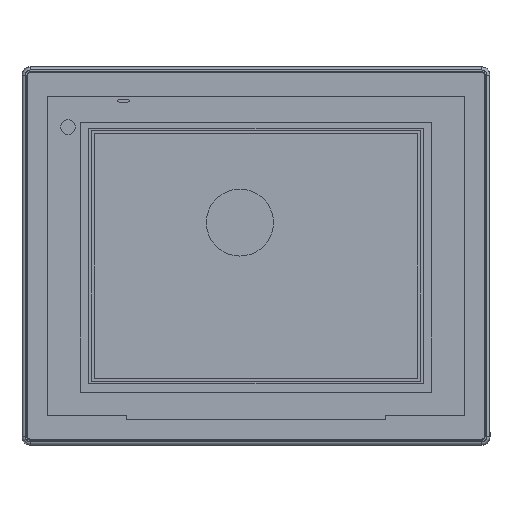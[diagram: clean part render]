
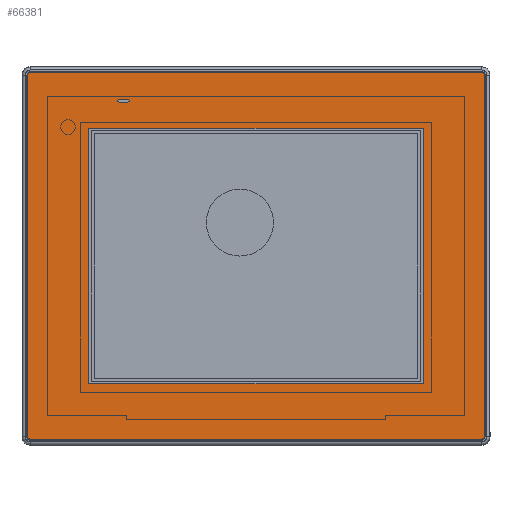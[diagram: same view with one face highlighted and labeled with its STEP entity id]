
A CAD part, top view. The second image highlights one B-rep face of the part: STEP entity #66381.
In plain terms, the highlighted planar face has unit normal (0, 0, 1).
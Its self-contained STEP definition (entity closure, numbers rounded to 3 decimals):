
#475 = VERTEX_POINT ( 'NONE', #16143 ) ;
#1720 = CARTESIAN_POINT ( 'NONE',  ( 35.25, 125.35, 59.45 ) ) ;
#1728 = DIRECTION ( 'NONE',  ( -1., 0., 0. ) ) ;
#5319 = VERTEX_POINT ( 'NONE', #62696 ) ;
#5852 = VERTEX_POINT ( 'NONE', #53011 ) ;
#6513 = CARTESIAN_POINT ( 'NONE',  ( 167.4, 134., 59.45 ) ) ;
#7281 = CARTESIAN_POINT ( 'NONE',  ( 145.4, 68.5, 59.45 ) ) ;
#8095 = AXIS2_PLACEMENT_3D ( 'NONE', #55994, #48306, #63365 ) ;
#8406 = CARTESIAN_POINT ( 'NONE',  ( 35.25, 125.35, 59.45 ) ) ;
#9263 = VECTOR ( 'NONE', #33029, 1000. ) ;
#9333 = CIRCLE ( 'NONE', #30495, 0.9 ) ;
#9541 = LINE ( 'NONE', #46354, #58987 ) ;
#9969 = FACE_BOUND ( 'NONE', #60865, .T. ) ;
#11398 = ORIENTED_EDGE ( 'NONE', *, *, #19121, .F. ) ;
#11496 = EDGE_CURVE ( 'NONE', #28365, #41500, #9541, .T. ) ;
#11965 = CIRCLE ( 'NONE', #88518, 0.9 ) ;
#11984 = VERTEX_POINT ( 'NONE', #81176 ) ;
#12794 = VECTOR ( 'NONE', #81607, 1000. ) ;
#12865 = CARTESIAN_POINT ( 'NONE',  ( 34.7, 124.8, 59.45 ) ) ;
#13031 = EDGE_CURVE ( 'NONE', #77338, #75606, #81578, .T. ) ;
#14321 = VERTEX_POINT ( 'NONE', #44007 ) ;
#14625 = VECTOR ( 'NONE', #27465, 1000. ) ;
#16143 = CARTESIAN_POINT ( 'NONE',  ( 145.4, 22.2, 59.45 ) ) ;
#16356 = CARTESIAN_POINT ( 'NONE',  ( 84.75, 134.9, 59.45 ) ) ;
#16699 = CARTESIAN_POINT ( 'NONE',  ( 35.25, 124.25, 59.45 ) ) ;
#16757 = ORIENTED_EDGE ( 'NONE', *, *, #43965, .F. ) ;
#16799 = VERTEX_POINT ( 'NONE', #25194 ) ;
#17066 = CIRCLE ( 'NONE', #88803, 0.55 ) ;
#17124 = VERTEX_POINT ( 'NONE', #74546 ) ;
#17544 = EDGE_CURVE ( 'NONE', #41066, #5319, #34258, .T. ) ;
#17686 = VECTOR ( 'NONE', #43431, 1000. ) ;
#18149 = DIRECTION ( 'NONE',  ( 0., -1., 0. ) ) ;
#18494 = CARTESIAN_POINT ( 'NONE',  ( 145.4, 114.8, 59.45 ) ) ;
#18739 = AXIS2_PLACEMENT_3D ( 'NONE', #84615, #26537, #63157 ) ;
#19108 = CARTESIAN_POINT ( 'NONE',  ( 24.1, 68.5, 59.45 ) ) ;
#19121 = EDGE_CURVE ( 'NONE', #11984, #68462, #33972, .T. ) ;
#19984 = EDGE_CURVE ( 'NONE', #47670, #11984, #44226, .T. ) ;
#21652 = DIRECTION ( 'NONE',  ( 0., 0., -1. ) ) ;
#22769 = EDGE_CURVE ( 'NONE', #61246, #17124, #56438, .T. ) ;
#24925 = ORIENTED_EDGE ( 'NONE', *, *, #28286, .T. ) ;
#25052 = ORIENTED_EDGE ( 'NONE', *, *, #22769, .F. ) ;
#25194 = CARTESIAN_POINT ( 'NONE',  ( 38.25, 125.35, 59.45 ) ) ;
#25199 = EDGE_CURVE ( 'NONE', #17124, #14321, #64128, .T. ) ;
#25368 = DIRECTION ( 'NONE',  ( -1., 0., 0. ) ) ;
#26537 = DIRECTION ( 'NONE',  ( 0., 0., -1. ) ) ;
#27465 = DIRECTION ( 'NONE',  ( -1., 0., 0. ) ) ;
#28286 = EDGE_CURVE ( 'NONE', #75606, #28363, #76248, .T. ) ;
#28363 = VERTEX_POINT ( 'NONE', #12865 ) ;
#28365 = VERTEX_POINT ( 'NONE', #6513 ) ;
#28793 = CARTESIAN_POINT ( 'NONE',  ( 2.1, 68.5, 59.45 ) ) ;
#29135 = EDGE_CURVE ( 'NONE', #475, #47670, #39373, .T. ) ;
#29452 = DIRECTION ( 'NONE',  ( 0., 1., 0. ) ) ;
#30107 = LINE ( 'NONE', #1720, #12794 ) ;
#30495 = AXIS2_PLACEMENT_3D ( 'NONE', #34774, #88605, #71328 ) ;
#30686 = ORIENTED_EDGE ( 'NONE', *, *, #69786, .F. ) ;
#32163 = ORIENTED_EDGE ( 'NONE', *, *, #47886, .F. ) ;
#32760 = VECTOR ( 'NONE', #18149, 1000. ) ;
#33029 = DIRECTION ( 'NONE',  ( 1., 0., 0. ) ) ;
#33096 = VECTOR ( 'NONE', #90157, 1000. ) ;
#33972 = LINE ( 'NONE', #19108, #32760 ) ;
#34258 = LINE ( 'NONE', #93536, #14625 ) ;
#34641 = DIRECTION ( 'NONE',  ( -1., 0., 0. ) ) ;
#34774 = CARTESIAN_POINT ( 'NONE',  ( 166.5, 134., 59.45 ) ) ;
#36750 = AXIS2_PLACEMENT_3D ( 'NONE', #68156, #53417, #82240 ) ;
#37222 = CARTESIAN_POINT ( 'NONE',  ( 38.25, 124.25, 59.45 ) ) ;
#39171 = LINE ( 'NONE', #41045, #9263 ) ;
#39373 = LINE ( 'NONE', #7281, #63501 ) ;
#41045 = CARTESIAN_POINT ( 'NONE',  ( 84.75, 22.2, 59.45 ) ) ;
#41066 = VERTEX_POINT ( 'NONE', #42755 ) ;
#41500 = VERTEX_POINT ( 'NONE', #78239 ) ;
#42755 = CARTESIAN_POINT ( 'NONE',  ( 166.5, 2.1, 59.45 ) ) ;
#43431 = DIRECTION ( 'NONE',  ( -1., 0., 0. ) ) ;
#43683 = EDGE_CURVE ( 'NONE', #66957, #16799, #30107, .T. ) ;
#43965 = EDGE_CURVE ( 'NONE', #14321, #28365, #9333, .T. ) ;
#44007 = CARTESIAN_POINT ( 'NONE',  ( 166.5, 134.9, 59.45 ) ) ;
#44226 = LINE ( 'NONE', #64904, #17686 ) ;
#45278 = LINE ( 'NONE', #28793, #94556 ) ;
#46354 = CARTESIAN_POINT ( 'NONE',  ( 167.4, 68.5, 59.45 ) ) ;
#47670 = VERTEX_POINT ( 'NONE', #18494 ) ;
#47850 = AXIS2_PLACEMENT_3D ( 'NONE', #81610, #60172, #1728 ) ;
#47880 = ORIENTED_EDGE ( 'NONE', *, *, #13031, .T. ) ;
#47886 = EDGE_CURVE ( 'NONE', #5852, #61246, #45278, .T. ) ;
#48306 = DIRECTION ( 'NONE',  ( 0., 0., -1. ) ) ;
#48612 = ORIENTED_EDGE ( 'NONE', *, *, #19984, .F. ) ;
#49878 = EDGE_CURVE ( 'NONE', #68462, #475, #39171, .T. ) ;
#53011 = CARTESIAN_POINT ( 'NONE',  ( 2.1, 3., 59.45 ) ) ;
#53417 = DIRECTION ( 'NONE',  ( 0., 0., -1. ) ) ;
#55994 = CARTESIAN_POINT ( 'NONE',  ( 35.25, 124.8, 59.45 ) ) ;
#56438 = CIRCLE ( 'NONE', #18739, 0.9 ) ;
#56591 = CIRCLE ( 'NONE', #47850, 0.55 ) ;
#56602 = ORIENTED_EDGE ( 'NONE', *, *, #43683, .T. ) ;
#57404 = DIRECTION ( 'NONE',  ( 0., 1., 0. ) ) ;
#58785 = CIRCLE ( 'NONE', #36750, 0.9 ) ;
#58987 = VECTOR ( 'NONE', #75167, 1000. ) ;
#60172 = DIRECTION ( 'NONE',  ( 0., 0., -1. ) ) ;
#60865 = EDGE_LOOP ( 'NONE', ( #47880, #24925, #64683, #56602, #63332 ) ) ;
#61246 = VERTEX_POINT ( 'NONE', #75844 ) ;
#61694 = FACE_OUTER_BOUND ( 'NONE', #81160, .T. ) ;
#62696 = CARTESIAN_POINT ( 'NONE',  ( 3., 2.1, 59.45 ) ) ;
#63157 = DIRECTION ( 'NONE',  ( 1., 0., 0. ) ) ;
#63332 = ORIENTED_EDGE ( 'NONE', *, *, #69741, .T. ) ;
#63365 = DIRECTION ( 'NONE',  ( -1., 0., 0. ) ) ;
#63501 = VECTOR ( 'NONE', #29452, 1000. ) ;
#64128 = LINE ( 'NONE', #16356, #33096 ) ;
#64683 = ORIENTED_EDGE ( 'NONE', *, *, #78070, .T. ) ;
#64904 = CARTESIAN_POINT ( 'NONE',  ( 84.75, 114.8, 59.45 ) ) ;
#65963 = CARTESIAN_POINT ( 'NONE',  ( 3., 3., 59.45 ) ) ;
#66381 = ADVANCED_FACE ( 'NONE', ( #91470, #9969, #61694 ), #69371, .F. ) ;
#66957 = VERTEX_POINT ( 'NONE', #8406 ) ;
#68156 = CARTESIAN_POINT ( 'NONE',  ( 166.5, 3., 59.45 ) ) ;
#68462 = VERTEX_POINT ( 'NONE', #94245 ) ;
#69043 = CARTESIAN_POINT ( 'NONE',  ( 84.75, 68.5, 59.45 ) ) ;
#69371 = PLANE ( 'NONE',  #75201 ) ;
#69741 = EDGE_CURVE ( 'NONE', #16799, #77338, #56591, .T. ) ;
#69786 = EDGE_CURVE ( 'NONE', #41500, #41066, #58785, .T. ) ;
#71120 = CARTESIAN_POINT ( 'NONE',  ( 38.25, 124.25, 59.45 ) ) ;
#71328 = DIRECTION ( 'NONE',  ( 1., 0., 0. ) ) ;
#73609 = VECTOR ( 'NONE', #89116, 1000. ) ;
#74546 = CARTESIAN_POINT ( 'NONE',  ( 3., 134.9, 59.45 ) ) ;
#75167 = DIRECTION ( 'NONE',  ( 0., -1., 0. ) ) ;
#75201 = AXIS2_PLACEMENT_3D ( 'NONE', #69043, #76398, #25368 ) ;
#75606 = VERTEX_POINT ( 'NONE', #16699 ) ;
#75844 = CARTESIAN_POINT ( 'NONE',  ( 2.1, 134., 59.45 ) ) ;
#76248 = CIRCLE ( 'NONE', #8095, 0.55 ) ;
#76398 = DIRECTION ( 'NONE',  ( 0., 0., -1. ) ) ;
#76990 = ORIENTED_EDGE ( 'NONE', *, *, #93766, .F. ) ;
#77338 = VERTEX_POINT ( 'NONE', #71120 ) ;
#78070 = EDGE_CURVE ( 'NONE', #28363, #66957, #17066, .T. ) ;
#78239 = CARTESIAN_POINT ( 'NONE',  ( 167.4, 3., 59.45 ) ) ;
#81160 = EDGE_LOOP ( 'NONE', ( #76990, #90188, #30686, #85248, #16757, #82403, #25052, #32163 ) ) ;
#81176 = CARTESIAN_POINT ( 'NONE',  ( 24.1, 114.8, 59.45 ) ) ;
#81578 = LINE ( 'NONE', #37222, #73609 ) ;
#81607 = DIRECTION ( 'NONE',  ( 1., 0., 0. ) ) ;
#81610 = CARTESIAN_POINT ( 'NONE',  ( 38.25, 124.8, 59.45 ) ) ;
#82240 = DIRECTION ( 'NONE',  ( 1., 0., 0. ) ) ;
#82403 = ORIENTED_EDGE ( 'NONE', *, *, #25199, .F. ) ;
#84615 = CARTESIAN_POINT ( 'NONE',  ( 3., 134., 59.45 ) ) ;
#84963 = CARTESIAN_POINT ( 'NONE',  ( 35.25, 124.8, 59.45 ) ) ;
#85248 = ORIENTED_EDGE ( 'NONE', *, *, #11496, .F. ) ;
#88040 = DIRECTION ( 'NONE',  ( 1., 0., 0. ) ) ;
#88518 = AXIS2_PLACEMENT_3D ( 'NONE', #65963, #21652, #88040 ) ;
#88605 = DIRECTION ( 'NONE',  ( 0., 0., -1. ) ) ;
#88803 = AXIS2_PLACEMENT_3D ( 'NONE', #84963, #92323, #34641 ) ;
#89116 = DIRECTION ( 'NONE',  ( -1., 0., 0. ) ) ;
#89371 = ORIENTED_EDGE ( 'NONE', *, *, #49878, .F. ) ;
#90157 = DIRECTION ( 'NONE',  ( 1., 0., 0. ) ) ;
#90188 = ORIENTED_EDGE ( 'NONE', *, *, #17544, .F. ) ;
#91470 = FACE_BOUND ( 'NONE', #92981, .T. ) ;
#92323 = DIRECTION ( 'NONE',  ( 0., 0., -1. ) ) ;
#92981 = EDGE_LOOP ( 'NONE', ( #94959, #89371, #11398, #48612 ) ) ;
#93536 = CARTESIAN_POINT ( 'NONE',  ( 84.75, 2.1, 59.45 ) ) ;
#93766 = EDGE_CURVE ( 'NONE', #5319, #5852, #11965, .T. ) ;
#94245 = CARTESIAN_POINT ( 'NONE',  ( 24.1, 22.2, 59.45 ) ) ;
#94556 = VECTOR ( 'NONE', #57404, 1000. ) ;
#94959 = ORIENTED_EDGE ( 'NONE', *, *, #29135, .F. ) ;
